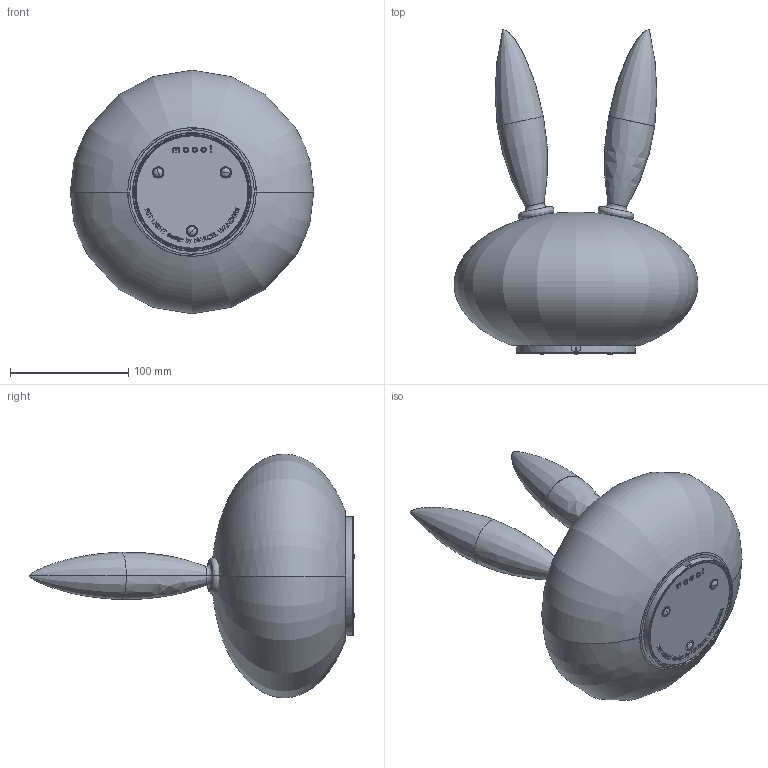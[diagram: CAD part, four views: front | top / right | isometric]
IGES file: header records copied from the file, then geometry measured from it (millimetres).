
Start section: SolidWorks IGES file using analytic representation for surfaces
Global section: file name: C:\Moooi\Project\LI_Lighting Decorative\LI135 Animal lamps\11_Export\A000660_Creations__04-05-2018.igs; native system: SolidWorks 2017; preprocessor: SolidWorks 2017; author: tessakoppers; date: 180504.104120; units: millimetre
Bounding box: 205.68 x 274.67 x 205.67 mm (x, y, z)
Surface area: 134961.4 mm2 (no closed solid volume)
Topology: 0 solids, 0 shells, 84 faces, 1950 edges, 1938 vertices
Faces by surface type: bspline 72, revolution 12
